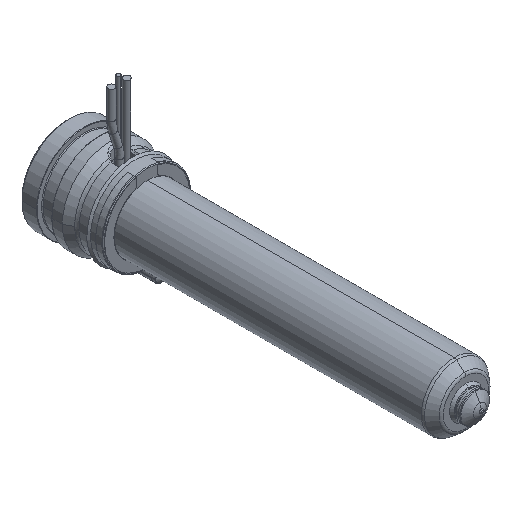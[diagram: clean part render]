
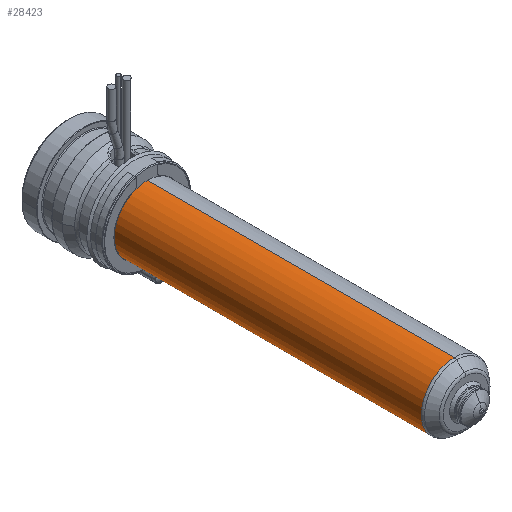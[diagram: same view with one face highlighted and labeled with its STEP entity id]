
A CAD part, isometric view. The second image highlights one B-rep face of the part: STEP entity #28423.
In plain terms, the highlighted cylindrical face has radius 9 mm (diameter 18 mm), a partial arc.
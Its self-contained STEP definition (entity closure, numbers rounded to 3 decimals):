
#27810=CARTESIAN_POINT('',(0.,-105.836,0.));
#27811=DIRECTION('',(0.,-1.,0.));
#27812=DIRECTION('',(0.,0.,1.));
#27813=AXIS2_PLACEMENT_3D('',#27810,#27811,#27812);
#27818=CARTESIAN_POINT('',(0.,-22.,0.));
#27819=DIRECTION('',(0.,-1.,0.));
#27820=DIRECTION('',(0.,0.,1.));
#27821=AXIS2_PLACEMENT_3D('',#27818,#27819,#27820);
#27826=DIRECTION('',(0.,-1.,0.));
#27827=VECTOR('',#27826,83.836);
#27828=CARTESIAN_POINT('',(0.,-22.,9.));
#27829=LINE('',#27828,#27827);
#27841=DIRECTION('',(0.,-1.,0.));
#27842=VECTOR('',#27841,83.836);
#27843=CARTESIAN_POINT('',(0.,-22.,-9.));
#27844=LINE('',#27843,#27842);
#28040=CARTESIAN_POINT('',(0.,-22.,9.));
#28041=CARTESIAN_POINT('',(0.,-105.836,9.));
#28042=VERTEX_POINT('',#28040);
#28043=VERTEX_POINT('',#28041);
#28066=CARTESIAN_POINT('',(0.,-22.,-9.));
#28067=CARTESIAN_POINT('',(0.,-105.836,-9.));
#28068=VERTEX_POINT('',#28066);
#28069=VERTEX_POINT('',#28067);
#28409=CARTESIAN_POINT('',(0.,-13.2,0.));
#28410=DIRECTION('',(0.,-1.,0.));
#28411=DIRECTION('',(0.,0.,1.));
#28412=AXIS2_PLACEMENT_3D('',#28409,#28410,#28411);
#28413=CYLINDRICAL_SURFACE('',#28412,9.);
#28415=ORIENTED_EDGE('',*,*,#28414,.T.);
#28416=ORIENTED_EDGE('',*,*,#28404,.T.);
#28418=ORIENTED_EDGE('',*,*,#28417,.F.);
#28420=ORIENTED_EDGE('',*,*,#28419,.F.);
#28421=EDGE_LOOP('',(#28415,#28416,#28418,#28420));
#28422=FACE_OUTER_BOUND('',#28421,.F.);
#28423=ADVANCED_FACE('',(#28422),#28413,.T.);
#27814=CIRCLE('',#27813,9.);
#27822=CIRCLE('',#27821,9.);
#28404=EDGE_CURVE('',#28043,#28069,#27814,.T.);
#28414=EDGE_CURVE('',#28042,#28043,#27829,.T.);
#28417=EDGE_CURVE('',#28068,#28069,#27844,.T.);
#28419=EDGE_CURVE('',#28042,#28068,#27822,.T.);
